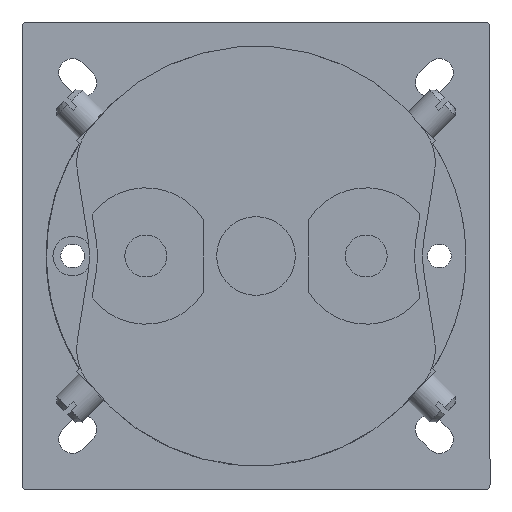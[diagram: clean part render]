
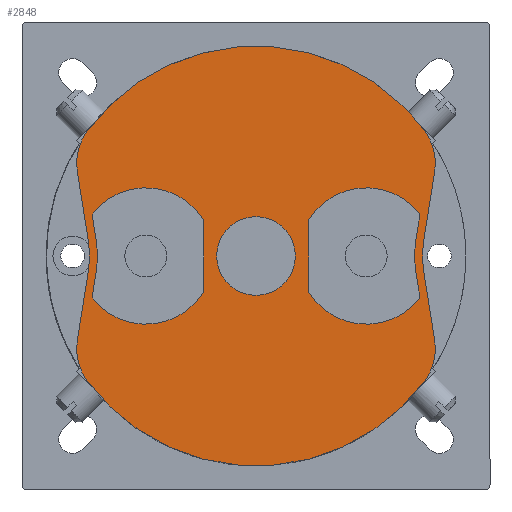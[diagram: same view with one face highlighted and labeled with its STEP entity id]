
A CAD part, front view. The second image highlights one B-rep face of the part: STEP entity #2848.
In plain terms, the highlighted planar face has unit normal (0, -1, 0).
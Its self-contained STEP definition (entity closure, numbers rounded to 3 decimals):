
#1529=FACE_BOUND('',#7568,.T.);
#1530=FACE_BOUND('',#7569,.T.);
#1531=FACE_BOUND('',#7570,.T.);
#1532=FACE_BOUND('',#7571,.T.);
#2848=ADVANCED_FACE('',(#1529,#1530,#1531,#1532),#4203,.T.);
#4203=PLANE('',#32124);
#7568=EDGE_LOOP('',(#15339,#15340,#15341,#15342,#15343,#15344));
#7569=EDGE_LOOP('',(#15345,#15346,#15347,#15348,#15349,#15350));
#7570=EDGE_LOOP('',(#15351,#15352,#15353,#15354,#15355,#15356,#15357,#15358,
#15359,#15360,#15361,#15362));
#7571=EDGE_LOOP('',(#15363));
#8706=CIRCLE('',#32096,7.5);
#8707=CIRCLE('',#32098,13.);
#8708=CIRCLE('',#32101,21.5);
#8709=CIRCLE('',#32104,13.);
#8710=CIRCLE('',#32107,21.5);
#8711=CIRCLE('',#32110,13.);
#8712=CIRCLE('',#32113,13.);
#8713=CIRCLE('',#32116,10.);
#8714=CIRCLE('',#32117,20.);
#8715=CIRCLE('',#32118,10.);
#8716=CIRCLE('',#32119,40.);
#8717=CIRCLE('',#32120,10.);
#8718=CIRCLE('',#32121,20.);
#8719=CIRCLE('',#32122,10.);
#8720=CIRCLE('',#32123,40.);
#15339=ORIENTED_EDGE('',*,*,#23291,.T.);
#15340=ORIENTED_EDGE('',*,*,#23289,.T.);
#15341=ORIENTED_EDGE('',*,*,#23287,.T.);
#15342=ORIENTED_EDGE('',*,*,#23285,.T.);
#15343=ORIENTED_EDGE('',*,*,#23283,.T.);
#15344=ORIENTED_EDGE('',*,*,#23280,.T.);
#15345=ORIENTED_EDGE('',*,*,#23279,.F.);
#15346=ORIENTED_EDGE('',*,*,#23277,.F.);
#15347=ORIENTED_EDGE('',*,*,#23275,.F.);
#15348=ORIENTED_EDGE('',*,*,#23273,.F.);
#15349=ORIENTED_EDGE('',*,*,#23271,.F.);
#15350=ORIENTED_EDGE('',*,*,#23268,.F.);
#15351=ORIENTED_EDGE('',*,*,#23292,.T.);
#15352=ORIENTED_EDGE('',*,*,#23293,.T.);
#15353=ORIENTED_EDGE('',*,*,#23294,.T.);
#15354=ORIENTED_EDGE('',*,*,#23295,.T.);
#15355=ORIENTED_EDGE('',*,*,#23296,.T.);
#15356=ORIENTED_EDGE('',*,*,#23297,.T.);
#15357=ORIENTED_EDGE('',*,*,#23298,.T.);
#15358=ORIENTED_EDGE('',*,*,#23299,.T.);
#15359=ORIENTED_EDGE('',*,*,#23300,.T.);
#15360=ORIENTED_EDGE('',*,*,#23301,.T.);
#15361=ORIENTED_EDGE('',*,*,#23302,.T.);
#15362=ORIENTED_EDGE('',*,*,#23303,.T.);
#15363=ORIENTED_EDGE('',*,*,#23267,.F.);
#19423=VERTEX_POINT('',#50380);
#19424=VERTEX_POINT('',#50383);
#19425=VERTEX_POINT('',#50384);
#19426=VERTEX_POINT('',#50389);
#19427=VERTEX_POINT('',#50393);
#19428=VERTEX_POINT('',#50397);
#19429=VERTEX_POINT('',#50401);
#19430=VERTEX_POINT('',#50407);
#19431=VERTEX_POINT('',#50408);
#19432=VERTEX_POINT('',#50413);
#19433=VERTEX_POINT('',#50417);
#19434=VERTEX_POINT('',#50421);
#19435=VERTEX_POINT('',#50425);
#19436=VERTEX_POINT('',#50431);
#19437=VERTEX_POINT('',#50432);
#19438=VERTEX_POINT('',#50434);
#19439=VERTEX_POINT('',#50436);
#19440=VERTEX_POINT('',#50438);
#19441=VERTEX_POINT('',#50440);
#19442=VERTEX_POINT('',#50442);
#19443=VERTEX_POINT('',#50444);
#19444=VERTEX_POINT('',#50446);
#19445=VERTEX_POINT('',#50448);
#19446=VERTEX_POINT('',#50450);
#19447=VERTEX_POINT('',#50452);
#23267=EDGE_CURVE('',#19423,#19423,#8706,.T.);
#23268=EDGE_CURVE('',#19424,#19425,#8707,.T.);
#23271=EDGE_CURVE('',#19425,#19426,#26471,.T.);
#23273=EDGE_CURVE('',#19426,#19427,#8708,.T.);
#23275=EDGE_CURVE('',#19427,#19428,#26474,.T.);
#23277=EDGE_CURVE('',#19428,#19429,#8709,.T.);
#23279=EDGE_CURVE('',#19429,#19424,#26477,.T.);
#23280=EDGE_CURVE('',#19430,#19431,#8710,.T.);
#23283=EDGE_CURVE('',#19432,#19430,#26480,.T.);
#23285=EDGE_CURVE('',#19433,#19432,#8711,.T.);
#23287=EDGE_CURVE('',#19434,#19433,#26483,.T.);
#23289=EDGE_CURVE('',#19435,#19434,#8712,.T.);
#23291=EDGE_CURVE('',#19431,#19435,#26486,.T.);
#23292=EDGE_CURVE('',#19436,#19437,#8713,.T.);
#23293=EDGE_CURVE('',#19437,#19438,#26487,.T.);
#23294=EDGE_CURVE('',#19438,#19439,#8714,.T.);
#23295=EDGE_CURVE('',#19439,#19440,#26488,.T.);
#23296=EDGE_CURVE('',#19440,#19441,#8715,.T.);
#23297=EDGE_CURVE('',#19441,#19442,#8716,.T.);
#23298=EDGE_CURVE('',#19442,#19443,#8717,.T.);
#23299=EDGE_CURVE('',#19443,#19444,#26489,.T.);
#23300=EDGE_CURVE('',#19444,#19445,#8718,.T.);
#23301=EDGE_CURVE('',#19445,#19446,#26490,.T.);
#23302=EDGE_CURVE('',#19446,#19447,#8719,.T.);
#23303=EDGE_CURVE('',#19447,#19436,#8720,.T.);
#26471=LINE('',#50388,#29448);
#26474=LINE('',#50396,#29451);
#26477=LINE('',#50404,#29454);
#26480=LINE('',#50412,#29457);
#26483=LINE('',#50420,#29460);
#26486=LINE('',#50428,#29463);
#26487=LINE('',#50433,#29464);
#26488=LINE('',#50437,#29465);
#26489=LINE('',#50445,#29466);
#26490=LINE('',#50449,#29467);
#29448=VECTOR('',#39145,1.);
#29451=VECTOR('',#39154,1.);
#29454=VECTOR('',#39163,1.);
#29457=VECTOR('',#39172,1.);
#29460=VECTOR('',#39181,1.);
#29463=VECTOR('',#39190,1.);
#29464=VECTOR('',#39195,1.);
#29465=VECTOR('',#39198,1.);
#29466=VECTOR('',#39205,1.);
#29467=VECTOR('',#39208,1.);
#32096=AXIS2_PLACEMENT_3D('',#50379,#39135,#39136);
#32098=AXIS2_PLACEMENT_3D('',#50382,#39139,#39140);
#32101=AXIS2_PLACEMENT_3D('',#50392,#39149,#39150);
#32104=AXIS2_PLACEMENT_3D('',#50400,#39158,#39159);
#32107=AXIS2_PLACEMENT_3D('',#50406,#39166,#39167);
#32110=AXIS2_PLACEMENT_3D('',#50416,#39176,#39177);
#32113=AXIS2_PLACEMENT_3D('',#50424,#39185,#39186);
#32116=AXIS2_PLACEMENT_3D('',#50430,#39193,#39194);
#32117=AXIS2_PLACEMENT_3D('',#50435,#39196,#39197);
#32118=AXIS2_PLACEMENT_3D('',#50439,#39199,#39200);
#32119=AXIS2_PLACEMENT_3D('',#50441,#39201,#39202);
#32120=AXIS2_PLACEMENT_3D('',#50443,#39203,#39204);
#32121=AXIS2_PLACEMENT_3D('',#50447,#39206,#39207);
#32122=AXIS2_PLACEMENT_3D('',#50451,#39209,#39210);
#32123=AXIS2_PLACEMENT_3D('',#50453,#39211,#39212);
#32124=AXIS2_PLACEMENT_3D('',#50454,#39213,#39214);
#39135=DIRECTION('',(0.,-1.,0.));
#39136=DIRECTION('',(0.,0.,-1.));
#39139=DIRECTION('',(0.,-1.,0.));
#39140=DIRECTION('',(1.,0.,0.));
#39145=DIRECTION('',(-0.156,0.,0.988));
#39149=DIRECTION('',(0.,1.,0.));
#39150=DIRECTION('',(1.,0.,0.));
#39154=DIRECTION('',(0.156,0.,0.988));
#39158=DIRECTION('',(0.,-1.,0.));
#39159=DIRECTION('',(1.,0.,0.));
#39163=DIRECTION('',(0.,0.,-1.));
#39166=DIRECTION('',(0.,-1.,0.));
#39167=DIRECTION('',(1.,0.,0.));
#39172=DIRECTION('',(0.156,0.,0.988));
#39176=DIRECTION('',(0.,1.,0.));
#39177=DIRECTION('',(1.,0.,0.));
#39181=DIRECTION('',(0.,0.,-1.));
#39185=DIRECTION('',(0.,1.,0.));
#39186=DIRECTION('',(1.,0.,0.));
#39190=DIRECTION('',(-0.156,0.,0.988));
#39193=DIRECTION('',(0.,-1.,0.));
#39194=DIRECTION('',(0.,0.,-1.));
#39195=DIRECTION('',(0.156,0.,-0.988));
#39196=DIRECTION('',(0.,1.,0.));
#39197=DIRECTION('',(0.,0.,-1.));
#39198=DIRECTION('',(-0.156,0.,-0.988));
#39199=DIRECTION('',(0.,-1.,0.));
#39200=DIRECTION('',(0.,0.,-1.));
#39201=DIRECTION('',(0.,-1.,0.));
#39202=DIRECTION('',(0.,0.,-1.));
#39203=DIRECTION('',(0.,-1.,0.));
#39204=DIRECTION('',(0.,0.,-1.));
#39205=DIRECTION('',(-0.156,0.,0.988));
#39206=DIRECTION('',(0.,1.,0.));
#39207=DIRECTION('',(0.,0.,-1.));
#39208=DIRECTION('',(0.156,0.,0.988));
#39209=DIRECTION('',(0.,-1.,0.));
#39210=DIRECTION('',(0.,0.,-1.));
#39211=DIRECTION('',(0.,-1.,0.));
#39212=DIRECTION('',(0.,0.,-1.));
#39213=DIRECTION('',(0.,-1.,0.));
#39214=DIRECTION('',(0.,0.,-1.));
#50379=CARTESIAN_POINT('',(0.,-206.5,0.));
#50380=CARTESIAN_POINT('',(0.,-206.5,-7.5));
#50382=CARTESIAN_POINT('',(21.031,-206.5,0.));
#50383=CARTESIAN_POINT('',(10.031,-206.5,-6.928));
#50384=CARTESIAN_POINT('',(31.253,-206.5,-8.032));
#50388=CARTESIAN_POINT('',(31.253,-206.5,-8.032));
#50389=CARTESIAN_POINT('',(30.514,-206.5,-3.363));
#50392=CARTESIAN_POINT('',(51.749,-206.5,0.));
#50393=CARTESIAN_POINT('',(30.514,-206.5,3.363));
#50396=CARTESIAN_POINT('',(30.514,-206.5,3.363));
#50397=CARTESIAN_POINT('',(31.253,-206.5,8.032));
#50400=CARTESIAN_POINT('',(21.031,-206.5,0.));
#50401=CARTESIAN_POINT('',(10.031,-206.5,6.928));
#50404=CARTESIAN_POINT('',(10.031,-206.5,6.928));
#50406=CARTESIAN_POINT('',(-51.749,-206.5,0.));
#50407=CARTESIAN_POINT('',(-30.514,-206.5,-3.363));
#50408=CARTESIAN_POINT('',(-30.514,-206.5,3.363));
#50412=CARTESIAN_POINT('',(-31.248,-206.5,-7.998));
#50413=CARTESIAN_POINT('',(-31.248,-206.5,-7.998));
#50416=CARTESIAN_POINT('',(-21.,-206.5,0.));
#50417=CARTESIAN_POINT('',(-10.,-206.5,-6.928));
#50420=CARTESIAN_POINT('',(-10.,-206.5,6.928));
#50421=CARTESIAN_POINT('',(-10.,-206.5,6.928));
#50424=CARTESIAN_POINT('',(-21.,-206.5,0.));
#50425=CARTESIAN_POINT('',(-31.248,-206.5,7.998));
#50428=CARTESIAN_POINT('',(-30.514,-206.5,3.363));
#50430=CARTESIAN_POINT('',(-24.186,-206.5,17.749));
#50431=CARTESIAN_POINT('',(-32.249,-206.5,23.665));
#50432=CARTESIAN_POINT('',(-34.063,-206.5,16.184));
#50433=CARTESIAN_POINT('',(-34.063,-206.5,16.184));
#50434=CARTESIAN_POINT('',(-31.996,-206.5,3.129));
#50435=CARTESIAN_POINT('',(-51.749,-206.5,0.));
#50436=CARTESIAN_POINT('',(-31.996,-206.5,-3.129));
#50437=CARTESIAN_POINT('',(-31.996,-206.5,-3.129));
#50438=CARTESIAN_POINT('',(-34.063,-206.5,-16.184));
#50439=CARTESIAN_POINT('',(-24.186,-206.5,-17.749));
#50440=CARTESIAN_POINT('',(-32.249,-206.5,-23.665));
#50441=CARTESIAN_POINT('',(0.,-206.5,0.));
#50442=CARTESIAN_POINT('',(32.249,-206.5,-23.665));
#50443=CARTESIAN_POINT('',(24.186,-206.5,-17.749));
#50444=CARTESIAN_POINT('',(34.063,-206.5,-16.184));
#50445=CARTESIAN_POINT('',(34.063,-206.5,-16.184));
#50446=CARTESIAN_POINT('',(31.996,-206.5,-3.129));
#50447=CARTESIAN_POINT('',(51.749,-206.5,0.));
#50448=CARTESIAN_POINT('',(31.996,-206.5,3.129));
#50449=CARTESIAN_POINT('',(31.996,-206.5,3.129));
#50450=CARTESIAN_POINT('',(34.063,-206.5,16.184));
#50451=CARTESIAN_POINT('',(24.186,-206.5,17.749));
#50452=CARTESIAN_POINT('',(32.249,-206.5,23.665));
#50453=CARTESIAN_POINT('',(0.,-206.5,0.));
#50454=CARTESIAN_POINT('',(-24.186,-206.5,17.749));
